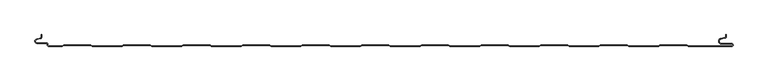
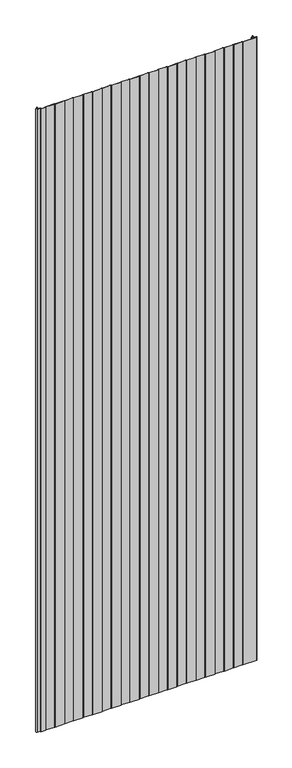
"""IFC4 building model written with IfcOpenShell, lengths in millimetres: plate geometry, PM1_Curtain-Panel_Perfil-Estándar : ACH_PM1_Panel-Acústico-Sectorización_100M."""

from ifc_helpers import new_model, si_unit, frame, origin, place, context, project, spatial, polyline, circle_curve, source, transform, mapped, element, save
from ifc_brep_helpers import plane_surface, cylinder_surface, revolved_surface, advanced_brep


def plate_645c54cf(model_context):
    return source(origin(), model_context, "Body", "AdvancedBrep", [
        advanced_brep(
        [(-562.4, -100.0, 3500.0), (-539.3999999, -100.0, 3500.0), (-536.8019223, -98.5, 3500.0), (-492.0019247, -98.5, 3500.0), (-489.4038471, -100.0, 3500.0), (-439.3999999, -100.0, 3500.0), (-436.8019223, -98.5, 3500.0), (-392.0019247, -98.5, 3500.0), (-389.4038471, -100.0, 3500.0), (-339.3999999, -100.0, 3500.0), (-336.8019223, -98.5, 3500.0), (-292.0019247, -98.5, 3500.0), (-289.4038471, -100.0, 3500.0), (-239.3999999, -100.0, 3500.0), (-236.8019223, -98.5, 3500.0), (-192.0019247, -98.5, 3500.0), (-189.4038471, -100.0, 3500.0), (-139.3999999, -100.0, 3500.0), (-136.8019223, -98.5, 3500.0), (-92.0019247, -98.5, 3500.0), (-89.4038471, -100.0, 3500.0), (-39.3999999, -100.0, 3500.0), (-36.8019223, -98.5, 3500.0), (7.9980753, -98.5, 3500.0), (10.5961529, -100.0, 3500.0), (60.6000001, -100.0, 3500.0), (63.1980777, -98.5, 3500.0), (107.9980753, -98.5, 3500.0), (110.5961529, -100.0, 3500.0), (160.6000001, -100.0, 3500.0), (163.1980777, -98.5, 3500.0), (207.9980753, -98.5, 3500.0), (210.5961529, -100.0, 3500.0), (260.6000001, -100.0, 3500.0), (263.1980777, -98.5, 3500.0), (307.9980753, -98.5, 3500.0), (310.5961529, -100.0, 3500.0), (360.6000001, -100.0, 3500.0), (363.1980777, -98.5, 3500.0), (407.9980753, -98.5, 3500.0), (410.5961529, -100.0, 3500.0), (460.6000001, -100.0, 3500.0), (463.1980777, -98.5, 3500.0), (507.9980753, -98.5, 3500.0), (510.5961529, -100.0, 3500.0), (583.1, -100.0, 3500.0), (585.6, -97.5, 3500.0), (583.1, -95.0, 3500.0), (566.1, -95.0, 3500.0), (565.4054075, -87.060769, 3500.0), (571.8514851, -85.924152, 3500.0), (574.0, -83.363652, 3500.0), (574.0, -80.0, 3500.0), (573.2, -80.0, 3500.0), (573.2, -83.363652, 3500.0), (571.7125666, -85.136306, 3500.0), (565.266489, -86.2729229, 3500.0), (566.1, -95.8, 3500.0), (583.1, -95.8, 3500.0), (583.1, -99.2, 3500.0), (510.8105122, -99.2, 3500.0), (508.2124346, -97.7, 3500.0), (462.9837184, -97.7, 3500.0), (460.3856408, -99.2, 3500.0), (410.8105122, -99.2, 3500.0), (408.2124346, -97.7, 3500.0), (362.9837184, -97.7, 3500.0), (360.3856408, -99.2, 3500.0), (310.8105122, -99.2, 3500.0), (308.2124346, -97.7, 3500.0), (262.9837184, -97.7, 3500.0), (260.3856408, -99.2, 3500.0), (210.8105122, -99.2, 3500.0), (208.2124346, -97.7, 3500.0), (162.9837184, -97.7, 3500.0), (160.3856408, -99.2, 3500.0), (110.8105122, -99.2, 3500.0), (108.2124346, -97.7, 3500.0), (62.9837184, -97.7, 3500.0), (60.3856408, -99.2, 3500.0), (10.8105122, -99.2, 3500.0), (8.2124346, -97.7, 3500.0), (-37.0162816, -97.7, 3500.0), (-39.6143592, -99.2, 3500.0), (-89.1894878, -99.2, 3500.0), (-91.7875654, -97.7, 3500.0), (-137.0162816, -97.7, 3500.0), (-139.6143592, -99.2, 3500.0), (-189.1894878, -99.2, 3500.0), (-191.7875654, -97.7, 3500.0), (-237.0162816, -97.7, 3500.0), (-239.6143592, -99.2, 3500.0), (-289.1894878, -99.2, 3500.0), (-291.7875654, -97.7, 3500.0), (-337.0162816, -97.7, 3500.0), (-339.6143592, -99.2, 3500.0), (-389.1894878, -99.2, 3500.0), (-391.7875654, -97.7, 3500.0), (-437.0162816, -97.7, 3500.0), (-439.6143592, -99.2, 3500.0), (-489.1894878, -99.2, 3500.0), (-491.7875654, -97.7, 3500.0), (-537.0162816, -97.7, 3500.0), (-539.6143592, -99.2, 3500.0), (-562.4, -99.2, 3500.0), (-563.6, -98.0, 3500.0), (-563.6, -96.6, 3500.0), (-566.4, -93.8, 3500.0), (-581.9, -93.8, 3500.0), (-582.529863, -88.2717638, 3500.0), (-576.370137, -86.849679, 3500.0), (-574.2, -84.121443, 3500.0), (-574.2, -80.0, 3500.0), (-575.0, -80.0, 3500.0), (-575.0, -84.121443, 3500.0), (-576.5500978, -86.0701831, 3500.0), (-582.7098239, -87.492268, 3500.0), (-581.9, -94.6, 3500.0), (-566.4, -94.6, 3500.0), (-564.4, -96.6, 3500.0), (-564.4, -98.0, 3500.0), (-562.4, -100.0, 0.0), (-564.4, -98.0, 0.0), (-564.4, -96.6, 0.0), (-566.4, -94.6, 0.0), (-581.9, -94.6, 0.0), (-582.7098239, -87.4922678, 0.0), (-576.5500979, -86.070183, 0.0), (-575.0, -84.121443, 0.0), (-575.0, -80.0, 0.0), (-574.2, -80.0, 0.0), (-574.2, -84.121443, 0.0), (-576.370137, -86.8496792, 0.0), (-582.529863, -88.271764, 0.0), (-581.9, -93.8, 0.0), (-566.4, -93.8, 0.0), (-563.6, -96.6, 0.0), (-563.6, -98.0, 0.0), (-562.4, -99.2, 0.0), (-539.6143592, -99.2, 0.0), (-537.0162816, -97.7, 0.0), (-491.7875654, -97.7, 0.0), (-489.1894878, -99.2, 0.0), (-439.6143592, -99.2, 0.0), (-437.0162816, -97.7, 0.0), (-391.7875654, -97.7, 0.0), (-389.1894878, -99.2, 0.0), (-339.6143592, -99.2, 0.0), (-337.0162816, -97.7, 0.0), (-291.7875654, -97.7, 0.0), (-289.1894878, -99.2, 0.0), (-239.6143592, -99.2, 0.0), (-237.0162816, -97.7, 0.0), (-191.7875654, -97.7, 0.0), (-189.1894878, -99.2, 0.0), (-139.6143592, -99.2, 0.0), (-137.0162816, -97.7, 0.0), (-91.7875654, -97.7, 0.0), (-89.1894878, -99.2, 0.0), (-39.6143592, -99.2, 0.0), (-37.0162816, -97.7, 0.0), (8.2124346, -97.7, 0.0), (10.8105122, -99.2, 0.0), (60.3856408, -99.2, 0.0), (62.9837184, -97.7, 0.0), (108.2124346, -97.7, 0.0), (110.8105122, -99.2, 0.0), (160.3856408, -99.2, 0.0), (162.9837184, -97.7, 0.0), (208.2124346, -97.7, 0.0), (210.8105122, -99.2, 0.0), (260.3856408, -99.2, 0.0), (262.9837184, -97.7, 0.0), (308.2124346, -97.7, 0.0), (310.8105122, -99.2, 0.0), (360.3856408, -99.2, 0.0), (362.9837184, -97.7, 0.0), (408.2124346, -97.7, 0.0), (410.8105122, -99.2, 0.0), (460.3856408, -99.2, 0.0), (462.9837184, -97.7, 0.0), (508.2124346, -97.7, 0.0), (510.8105122, -99.2, 0.0), (583.1, -99.2, 0.0), (583.1, -95.8, 0.0), (566.1, -95.8, 0.0), (565.266489, -86.2729227, 0.0), (571.7125666, -85.1363058, 0.0), (573.2, -83.363652, 0.0), (573.2, -80.0, 0.0), (574.0, -80.0, 0.0), (574.0, -83.363652, 0.0), (571.8514851, -85.9241522, 0.0), (565.4054075, -87.0607691, 0.0), (566.1, -95.0, 0.0), (583.1, -95.0, 0.0), (585.6, -97.5, 0.0), (583.1, -100.0, 0.0), (510.5961529, -100.0, 0.0), (507.9980753, -98.5, 0.0), (463.1980777, -98.5, 0.0), (460.6000001, -100.0, 0.0), (410.5961529, -100.0, 0.0), (407.9980753, -98.5, 0.0), (363.1980777, -98.5, 0.0), (360.6000001, -100.0, 0.0), (310.5961529, -100.0, 0.0), (307.9980753, -98.5, 0.0), (263.1980777, -98.5, 0.0), (260.6000001, -100.0, 0.0), (210.5961529, -100.0, 0.0), (207.9980753, -98.5, 0.0), (163.1980777, -98.5, 0.0), (160.6000001, -100.0, 0.0), (110.5961529, -100.0, 0.0), (107.9980753, -98.5, 0.0), (63.1980777, -98.5, 0.0), (60.6000001, -100.0, 0.0), (10.5961529, -100.0, 0.0), (7.9980753, -98.5, 0.0), (-36.8019223, -98.5, 0.0), (-39.3999999, -100.0, 0.0), (-89.4038471, -100.0, 0.0), (-92.0019247, -98.5, 0.0), (-136.8019223, -98.5, 0.0), (-139.3999999, -100.0, 0.0), (-189.4038471, -100.0, 0.0), (-192.0019247, -98.5, 0.0), (-236.8019223, -98.5, 0.0), (-239.3999999, -100.0, 0.0), (-289.4038471, -100.0, 0.0), (-292.0019247, -98.5, 0.0), (-336.8019223, -98.5, 0.0), (-339.3999999, -100.0, 0.0), (-389.4038471, -100.0, 0.0), (-392.0019247, -98.5, 0.0), (-436.8019223, -98.5, 0.0), (-439.3999999, -100.0, 0.0), (-489.4038471, -100.0, 0.0), (-492.0019247, -98.5, 0.0), (-536.8019223, -98.5, 0.0), (-539.3999999, -100.0, 0.0)],
        [
            (0, 1),
            (1, 2),
            (2, 3),
            (3, 4),
            (4, 5),
            (5, 6),
            (6, 7),
            (7, 8),
            (8, 9),
            (9, 10),
            (10, 11),
            (11, 12),
            (12, 13),
            (13, 14),
            (14, 15),
            (15, 16),
            (16, 17),
            (17, 18),
            (18, 19),
            (19, 20),
            (20, 21),
            (21, 22),
            (22, 23),
            (23, 24),
            (24, 25),
            (25, 26),
            (26, 27),
            (27, 28),
            (28, 29),
            (29, 30),
            (30, 31),
            (31, 32),
            (32, 33),
            (33, 34),
            (34, 35),
            (35, 36),
            (36, 37),
            (37, 38),
            (38, 39),
            (39, 40),
            (40, 41),
            (41, 42),
            (42, 43),
            (43, 44),
            (44, 45),
            (45, 46, circle_curve(frame((583.1, -97.5, 3500.0), z_axis=(0.0, 0.0, 1.0), x_axis=(1.0, 0.0, 0.0)), 2.5)),
            (46, 47, circle_curve(frame((583.1, -97.5, 3500.0), z_axis=(0.0, 0.0, 1.0), x_axis=(1.0, 0.0, 0.0)), 2.5)),
            (47, 48),
            (48, 49, circle_curve(frame((566.1, -91.0, 3500.0), z_axis=(0.0, 0.0, -1.0), x_axis=(1.0, 0.0, 0.0)), 4.0)),
            (49, 50),
            (50, 51, circle_curve(frame((571.4, -83.363652, 3500.0), z_axis=(0.0, 0.0, 1.0), x_axis=(1.0, 0.0, 0.0)), 2.6)),
            (51, 52),
            (52, 53),
            (53, 54),
            (54, 55, circle_curve(frame((571.4, -83.363652, 3500.0), z_axis=(0.0, 0.0, -1.0), x_axis=(1.0, 0.0, 0.0)), 1.8)),
            (55, 56),
            (56, 57, circle_curve(frame((566.1, -91.0, 3500.0), z_axis=(0.0, 0.0, 1.0), x_axis=(1.0, 0.0, 0.0)), 4.8)),
            (57, 58),
            (58, 59, circle_curve(frame((583.1, -97.5, 3500.0), z_axis=(0.0, 0.0, -1.0), x_axis=(1.0, 0.0, 0.0)), 1.7)),
            (59, 60),
            (60, 61),
            (61, 62),
            (62, 63),
            (63, 64),
            (64, 65),
            (65, 66),
            (66, 67),
            (67, 68),
            (68, 69),
            (69, 70),
            (70, 71),
            (71, 72),
            (72, 73),
            (73, 74),
            (74, 75),
            (75, 76),
            (76, 77),
            (77, 78),
            (78, 79),
            (79, 80),
            (80, 81),
            (81, 82),
            (82, 83),
            (83, 84),
            (84, 85),
            (85, 86),
            (86, 87),
            (87, 88),
            (88, 89),
            (89, 90),
            (90, 91),
            (91, 92),
            (92, 93),
            (93, 94),
            (94, 95),
            (95, 96),
            (96, 97),
            (97, 98),
            (98, 99),
            (99, 100),
            (100, 101),
            (101, 102),
            (102, 103),
            (103, 104),
            (104, 105, circle_curve(frame((-562.4, -98.0, 3500.0), z_axis=(0.0, 0.0, -1.0), x_axis=(1.0, 0.0, 0.0)), 1.2)),
            (105, 106),
            (106, 107, circle_curve(frame((-566.4, -96.6, 3500.0), z_axis=(0.0, 0.0, 1.0), x_axis=(1.0, 0.0, 0.0)), 2.8)),
            (107, 108),
            (108, 109, circle_curve(frame((-581.9, -91.0, 3500.0), z_axis=(0.0, 0.0, -1.0), x_axis=(1.0, 0.0, 0.0)), 2.8)),
            (109, 110),
            (110, 111, circle_curve(frame((-577.0, -84.121443, 3500.0), z_axis=(0.0, 0.0, 1.0), x_axis=(1.0, 0.0, 0.0)), 2.8)),
            (111, 112),
            (112, 113),
            (113, 114),
            (114, 115, circle_curve(frame((-577.0, -84.121443, 3500.0), z_axis=(0.0, 0.0, -1.0), x_axis=(1.0, 0.0, 0.0)), 2.0)),
            (115, 116),
            (116, 117, circle_curve(frame((-581.9, -91.0, 3500.0), z_axis=(0.0, 0.0, 1.0), x_axis=(1.0, 0.0, 0.0)), 3.6)),
            (117, 118),
            (118, 119, circle_curve(frame((-566.4, -96.6, 3500.0), z_axis=(0.0, 0.0, -1.0), x_axis=(1.0, 0.0, 0.0)), 2.0)),
            (119, 120),
            (120, 0, circle_curve(frame((-562.4, -98.0, 3500.0), z_axis=(0.0, 0.0, 1.0), x_axis=(1.0, 0.0, 0.0)), 2.0)),
            (121, 122, circle_curve(frame((-562.4, -98.0, 0.0), z_axis=(0.0, 0.0, -1.0), x_axis=(1.0, 0.0, 0.0)), 2.0)),
            (122, 123),
            (123, 124, circle_curve(frame((-566.4, -96.6, 0.0), z_axis=(0.0, 0.0, 1.0), x_axis=(1.0, 0.0, 0.0)), 2.0)),
            (124, 125),
            (125, 126, circle_curve(frame((-581.9, -91.0, 0.0), z_axis=(0.0, 0.0, -1.0), x_axis=(1.0, 0.0, 0.0)), 3.6)),
            (126, 127),
            (127, 128, circle_curve(frame((-577.0, -84.121443, 0.0), z_axis=(0.0, 0.0, 1.0), x_axis=(1.0, 0.0, 0.0)), 2.0)),
            (128, 129),
            (129, 130),
            (130, 131),
            (131, 132, circle_curve(frame((-577.0, -84.121443, 0.0), z_axis=(0.0, 0.0, -1.0), x_axis=(1.0, 0.0, 0.0)), 2.8)),
            (132, 133),
            (133, 134, circle_curve(frame((-581.9, -91.0, 0.0), z_axis=(0.0, 0.0, 1.0), x_axis=(1.0, 0.0, 0.0)), 2.8)),
            (134, 135),
            (135, 136, circle_curve(frame((-566.4, -96.6, 0.0), z_axis=(0.0, 0.0, -1.0), x_axis=(1.0, 0.0, 0.0)), 2.8)),
            (136, 137),
            (137, 138, circle_curve(frame((-562.4, -98.0, 0.0), z_axis=(0.0, 0.0, 1.0), x_axis=(1.0, 0.0, 0.0)), 1.2)),
            (138, 139),
            (139, 140),
            (140, 141),
            (141, 142),
            (142, 143),
            (143, 144),
            (144, 145),
            (145, 146),
            (146, 147),
            (147, 148),
            (148, 149),
            (149, 150),
            (150, 151),
            (151, 152),
            (152, 153),
            (153, 154),
            (154, 155),
            (155, 156),
            (156, 157),
            (157, 158),
            (158, 159),
            (159, 160),
            (160, 161),
            (161, 162),
            (162, 163),
            (163, 164),
            (164, 165),
            (165, 166),
            (166, 167),
            (167, 168),
            (168, 169),
            (169, 170),
            (170, 171),
            (171, 172),
            (172, 173),
            (173, 174),
            (174, 175),
            (175, 176),
            (176, 177),
            (177, 178),
            (178, 179),
            (179, 180),
            (180, 181),
            (181, 182),
            (182, 183),
            (183, 184, circle_curve(frame((583.1, -97.5, 0.0), z_axis=(0.0, 0.0, 1.0), x_axis=(1.0, 0.0, 0.0)), 1.7)),
            (184, 185),
            (185, 186, circle_curve(frame((566.1, -91.0, 0.0), z_axis=(0.0, 0.0, -1.0), x_axis=(1.0, 0.0, 0.0)), 4.8)),
            (186, 187),
            (187, 188, circle_curve(frame((571.4, -83.363652, 0.0), z_axis=(0.0, 0.0, 1.0), x_axis=(1.0, 0.0, 0.0)), 1.8)),
            (188, 189),
            (189, 190),
            (190, 191),
            (191, 192, circle_curve(frame((571.4, -83.363652, 0.0), z_axis=(0.0, 0.0, -1.0), x_axis=(1.0, 0.0, 0.0)), 2.6)),
            (192, 193),
            (193, 194, circle_curve(frame((566.1, -91.0, 0.0), z_axis=(0.0, 0.0, 1.0), x_axis=(1.0, 0.0, 0.0)), 4.0)),
            (194, 195),
            (195, 196, circle_curve(frame((583.1, -97.5, 0.0), z_axis=(0.0, 0.0, -1.0), x_axis=(1.0, 0.0, 0.0)), 2.5)),
            (196, 197, circle_curve(frame((583.1, -97.5, 0.0), z_axis=(0.0, 0.0, -1.0), x_axis=(1.0, 0.0, 0.0)), 2.5)),
            (197, 198),
            (198, 199),
            (199, 200),
            (200, 201),
            (201, 202),
            (202, 203),
            (203, 204),
            (204, 205),
            (205, 206),
            (206, 207),
            (207, 208),
            (208, 209),
            (209, 210),
            (210, 211),
            (211, 212),
            (212, 213),
            (213, 214),
            (214, 215),
            (215, 216),
            (216, 217),
            (217, 218),
            (218, 219),
            (219, 220),
            (220, 221),
            (221, 222),
            (222, 223),
            (223, 224),
            (224, 225),
            (225, 226),
            (226, 227),
            (227, 228),
            (228, 229),
            (229, 230),
            (230, 231),
            (231, 232),
            (232, 233),
            (233, 234),
            (234, 235),
            (235, 236),
            (236, 237),
            (237, 238),
            (238, 239),
            (239, 240),
            (240, 241),
            (241, 121),
            (0, 121),
            (241, 1),
            (240, 2),
            (239, 3),
            (238, 4),
            (237, 5),
            (236, 6),
            (235, 7),
            (234, 8),
            (233, 9),
            (232, 10),
            (231, 11),
            (230, 12),
            (229, 13),
            (228, 14),
            (227, 15),
            (226, 16),
            (225, 17),
            (224, 18),
            (223, 19),
            (222, 20),
            (221, 21),
            (220, 22),
            (219, 23),
            (218, 24),
            (217, 25),
            (216, 26),
            (215, 27),
            (214, 28),
            (213, 29),
            (212, 30),
            (211, 31),
            (210, 32),
            (209, 33),
            (208, 34),
            (207, 35),
            (206, 36),
            (205, 37),
            (204, 38),
            (203, 39),
            (202, 40),
            (201, 41),
            (200, 42),
            (199, 43),
            (198, 44),
            (197, 45),
            (195, 47),
            (194, 48),
            (193, 49),
            (192, 50),
            (191, 51),
            (190, 52),
            (189, 53),
            (188, 54),
            (187, 55),
            (186, 56),
            (185, 57),
            (184, 58),
            (183, 59),
            (182, 60),
            (181, 61),
            (180, 62),
            (179, 63),
            (178, 64),
            (177, 65),
            (176, 66),
            (175, 67),
            (174, 68),
            (173, 69),
            (172, 70),
            (171, 71),
            (170, 72),
            (169, 73),
            (168, 74),
            (167, 75),
            (166, 76),
            (165, 77),
            (164, 78),
            (163, 79),
            (162, 80),
            (161, 81),
            (160, 82),
            (159, 83),
            (158, 84),
            (157, 85),
            (156, 86),
            (155, 87),
            (154, 88),
            (153, 89),
            (152, 90),
            (151, 91),
            (150, 92),
            (149, 93),
            (148, 94),
            (147, 95),
            (146, 96),
            (145, 97),
            (144, 98),
            (143, 99),
            (142, 100),
            (141, 101),
            (140, 102),
            (139, 103),
            (138, 104),
            (137, 105),
            (136, 106),
            (135, 107),
            (134, 108),
            (133, 109),
            (132, 110),
            (131, 111),
            (130, 112),
            (129, 113),
            (128, 114),
            (127, 115),
            (126, 116),
            (125, 117),
            (124, 118),
            (123, 119),
            (122, 120),
        ],
        [
            plane_surface(frame((-575.0, -100.0, 3500.0), z_axis=(0.0, 0.0, 1.0), x_axis=(0.0, 1.0, 0.0))),
            plane_surface(frame((-575.0, -100.0, 0.0), z_axis=(0.0, 0.0, -1.0), x_axis=(0.0, 1.0, 0.0))),
            plane_surface(frame((-562.4, -100.0, 3500.0), z_axis=(0.0, -1.0, 0.0), x_axis=(0.0, 0.0, -1.0))),
            plane_surface(frame((-539.3999999, -100.0, 3500.0), z_axis=(0.49999979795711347, -0.8660255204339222, 0.0), x_axis=(0.0, 0.0, -1.0))),
            plane_surface(frame((-536.8019223, -98.5, 3500.0), z_axis=(0.0, -1.0, 0.0), x_axis=(0.0, 0.0, -1.0))),
            plane_surface(frame((-492.0019247, -98.5, 3500.0), z_axis=(-0.49999979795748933, -0.8660255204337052, 0.0), x_axis=(0.0, 0.0, -1.0))),
            plane_surface(frame((-489.4038471, -100.0, 3500.0), z_axis=(0.0, -1.0, 0.0), x_axis=(0.0, 0.0, -1.0))),
            plane_surface(frame((-439.3999999, -100.0, 3500.0), z_axis=(0.49999979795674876, -0.8660255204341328, 0.0), x_axis=(0.0, 0.0, -1.0))),
            plane_surface(frame((-436.8019223, -98.5, 3500.0), z_axis=(0.0, -1.0, 0.0), x_axis=(0.0, 0.0, -1.0))),
            plane_surface(frame((-392.0019247, -98.5, 3500.0), z_axis=(-0.4999997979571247, -0.8660255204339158, 0.0), x_axis=(0.0, 0.0, -1.0))),
            plane_surface(frame((-389.4038471, -100.0, 3500.0), z_axis=(0.0, -1.0, 0.0), x_axis=(0.0, 0.0, -1.0))),
            plane_surface(frame((-339.3999999, -100.0, 3500.0), z_axis=(0.49999979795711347, -0.8660255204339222, 0.0), x_axis=(0.0, 0.0, -1.0))),
            plane_surface(frame((-336.8019223, -98.5, 3500.0), z_axis=(0.0, -1.0, 0.0), x_axis=(0.0, 0.0, -1.0))),
            plane_surface(frame((-292.0019247, -98.5, 3500.0), z_axis=(-0.4999997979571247, -0.8660255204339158, 0.0), x_axis=(0.0, 0.0, -1.0))),
            plane_surface(frame((-289.4038471, -100.0, 3500.0), z_axis=(0.0, -1.0, 0.0), x_axis=(0.0, 0.0, -1.0))),
            plane_surface(frame((-239.3999999, -100.0, 3500.0), z_axis=(0.49999979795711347, -0.8660255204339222, 0.0), x_axis=(0.0, 0.0, -1.0))),
            plane_surface(frame((-236.8019223, -98.5, 3500.0), z_axis=(0.0, -1.0, 0.0), x_axis=(0.0, 0.0, -1.0))),
            plane_surface(frame((-192.0019247, -98.5, 3500.0), z_axis=(-0.49999979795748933, -0.8660255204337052, 0.0), x_axis=(0.0, 0.0, -1.0))),
            plane_surface(frame((-189.4038471, -100.0, 3500.0), z_axis=(0.0, -1.0, 0.0), x_axis=(0.0, 0.0, -1.0))),
            plane_surface(frame((-139.3999999, -100.0, 3500.0), z_axis=(0.49999979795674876, -0.8660255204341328, 0.0), x_axis=(0.0, 0.0, -1.0))),
            plane_surface(frame((-136.8019223, -98.5, 3500.0), z_axis=(0.0, -1.0, 0.0), x_axis=(0.0, 0.0, -1.0))),
            plane_surface(frame((-92.0019247, -98.5, 3500.0), z_axis=(-0.4999997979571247, -0.8660255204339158, 0.0), x_axis=(0.0, 0.0, -1.0))),
            plane_surface(frame((-89.4038471, -100.0, 3500.0), z_axis=(0.0, -1.0, 0.0), x_axis=(0.0, 0.0, -1.0))),
            plane_surface(frame((-39.3999999, -100.0, 3500.0), z_axis=(0.49999979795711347, -0.8660255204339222, 0.0), x_axis=(0.0, 0.0, -1.0))),
            plane_surface(frame((-36.8019223, -98.5, 3500.0), z_axis=(0.0, -1.0, 0.0), x_axis=(0.0, 0.0, -1.0))),
            plane_surface(frame((7.9980753, -98.5, 3500.0), z_axis=(-0.4999997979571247, -0.8660255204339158, 0.0), x_axis=(0.0, 0.0, -1.0))),
            plane_surface(frame((10.5961529, -100.0, 3500.0), z_axis=(0.0, -1.0, 0.0), x_axis=(0.0, 0.0, -1.0))),
            plane_surface(frame((60.6000001, -100.0, 3500.0), z_axis=(0.49999979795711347, -0.8660255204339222, 0.0), x_axis=(0.0, 0.0, -1.0))),
            plane_surface(frame((63.1980777, -98.5, 3500.0), z_axis=(0.0, -1.0, 0.0), x_axis=(0.0, 0.0, -1.0))),
            plane_surface(frame((107.9980753, -98.5, 3500.0), z_axis=(-0.49999979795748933, -0.8660255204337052, 0.0), x_axis=(0.0, 0.0, -1.0))),
            plane_surface(frame((110.5961529, -100.0, 3500.0), z_axis=(0.0, -1.0, 0.0), x_axis=(0.0, 0.0, -1.0))),
            plane_surface(frame((160.6000001, -100.0, 3500.0), z_axis=(0.49999979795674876, -0.8660255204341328, 0.0), x_axis=(0.0, 0.0, -1.0))),
            plane_surface(frame((163.1980777, -98.5, 3500.0), z_axis=(0.0, -1.0, 0.0), x_axis=(0.0, 0.0, -1.0))),
            plane_surface(frame((207.9980753, -98.5, 3500.0), z_axis=(-0.4999997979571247, -0.8660255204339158, 0.0), x_axis=(0.0, 0.0, -1.0))),
            plane_surface(frame((210.5961529, -100.0, 3500.0), z_axis=(0.0, -1.0, 0.0), x_axis=(0.0, 0.0, -1.0))),
            plane_surface(frame((260.6000001, -100.0, 3500.0), z_axis=(0.49999979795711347, -0.8660255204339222, 0.0), x_axis=(0.0, 0.0, -1.0))),
            plane_surface(frame((263.1980777, -98.5, 3500.0), z_axis=(0.0, -1.0, 0.0), x_axis=(0.0, 0.0, -1.0))),
            plane_surface(frame((307.9980753, -98.5, 3500.0), z_axis=(-0.4999997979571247, -0.8660255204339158, 0.0), x_axis=(0.0, 0.0, -1.0))),
            plane_surface(frame((310.5961529, -100.0, 3500.0), z_axis=(0.0, -1.0, 0.0), x_axis=(0.0, 0.0, -1.0))),
            plane_surface(frame((360.6000001, -100.0, 3500.0), z_axis=(0.49999979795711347, -0.8660255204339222, 0.0), x_axis=(0.0, 0.0, -1.0))),
            plane_surface(frame((363.1980777, -98.5, 3500.0), z_axis=(0.0, -1.0, 0.0), x_axis=(0.0, 0.0, -1.0))),
            plane_surface(frame((407.9980753, -98.5, 3500.0), z_axis=(-0.49999979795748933, -0.8660255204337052, 0.0), x_axis=(0.0, 0.0, -1.0))),
            plane_surface(frame((410.5961529, -100.0, 3500.0), z_axis=(0.0, -1.0, 0.0), x_axis=(0.0, 0.0, -1.0))),
            plane_surface(frame((460.6000001, -100.0, 3500.0), z_axis=(0.49999979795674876, -0.8660255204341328, 0.0), x_axis=(0.0, 0.0, -1.0))),
            plane_surface(frame((463.1980777, -98.5, 3500.0), z_axis=(0.0, -1.0, 0.0), x_axis=(0.0, 0.0, -1.0))),
            plane_surface(frame((507.9980753, -98.5, 3500.0), z_axis=(-0.4999997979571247, -0.8660255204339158, 0.0), x_axis=(0.0, 0.0, -1.0))),
            plane_surface(frame((560.890897, -100.0, 3500.0), z_axis=(0.0, -1.0, 0.0), x_axis=(0.0, 0.0, -1.0))),
            cylinder_surface(frame((583.1, -97.5, 3500.0), z_axis=(0.0, 0.0, 1.0), x_axis=(1.0, 0.0, 0.0)), 2.5),
            plane_surface(frame((583.1, -95.0, 3500.0), z_axis=(0.0, 1.0, 0.0), x_axis=(0.0, 0.0, -1.0))),
            revolved_surface(polyline([(570.1, -91.0, 0.0), (570.1, -91.0, 3500.0)]), (566.1, -91.0, 3500.0), (0.0, 0.0, -1.0)),
            plane_surface(frame((565.4054075, -87.0607691, 3500.0), z_axis=(0.17364813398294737, -0.9848077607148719, 0.0), x_axis=(0.0, 0.0, -1.0))),
            cylinder_surface(frame((571.4, -83.363652, 3500.0), z_axis=(0.0, 0.0, 1.0), x_axis=(1.0, 0.0, 0.0)), 2.6),
            plane_surface(frame((574.0, -83.363652, 3500.0), z_axis=(1.0, 0.0, 0.0), x_axis=(0.0, 0.0, -1.0))),
            plane_surface(frame((574.0, -80.0, 3500.0), z_axis=(0.0, 1.0, 0.0), x_axis=(0.0, 0.0, -1.0))),
            plane_surface(frame((573.2, -80.0, 3500.0), z_axis=(-1.0, 0.0, 0.0), x_axis=(0.0, 0.0, -1.0))),
            revolved_surface(polyline([(573.1999999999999, -83.363652, 0.0), (573.1999999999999, -83.363652, 3500.0)]), (571.4, -83.363652, 3500.0), (0.0, 0.0, -1.0)),
            plane_surface(frame((571.7125666, -85.1363058, 3500.0), z_axis=(-0.17364813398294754, 0.9848077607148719, 0.0), x_axis=(0.0, 0.0, -1.0))),
            cylinder_surface(frame((566.1, -91.0, 3500.0), z_axis=(0.0, 0.0, 1.0), x_axis=(1.0, 0.0, 0.0)), 4.8),
            plane_surface(frame((566.1, -95.8, 3500.0), z_axis=(0.0, -1.0, 0.0), x_axis=(0.0, 0.0, -1.0))),
            revolved_surface(polyline([(584.8000000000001, -97.5, 0.0), (584.8000000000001, -97.5, 3500.0)]), (583.1, -97.5, 3500.0), (0.0, 0.0, -1.0)),
            plane_surface(frame((560.890897, -99.2, 3500.0), z_axis=(0.0, 1.0, 0.0), x_axis=(0.0, 0.0, -1.0))),
            plane_surface(frame((510.8105122, -99.2, 3500.0), z_axis=(0.49999979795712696, 0.8660255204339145, 0.0), x_axis=(0.0, 0.0, -1.0))),
            plane_surface(frame((508.2124346, -97.7, 3500.0), z_axis=(0.0, 1.0, 0.0), x_axis=(0.0, 0.0, -1.0))),
            plane_surface(frame((462.9837184, -97.7, 3500.0), z_axis=(-0.4999997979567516, 0.8660255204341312, 0.0), x_axis=(0.0, 0.0, -1.0))),
            plane_surface(frame((460.3856408, -99.2, 3500.0), z_axis=(0.0, 1.0, 0.0), x_axis=(0.0, 0.0, -1.0))),
            plane_surface(frame((410.8105122, -99.2, 3500.0), z_axis=(0.4999997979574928, 0.8660255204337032, 0.0), x_axis=(0.0, 0.0, -1.0))),
            plane_surface(frame((408.2124346, -97.7, 3500.0), z_axis=(0.0, 1.0, 0.0), x_axis=(0.0, 0.0, -1.0))),
            plane_surface(frame((362.9837184, -97.7, 3500.0), z_axis=(-0.49999979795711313, 0.8660255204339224, 0.0), x_axis=(0.0, 0.0, -1.0))),
            plane_surface(frame((360.3856408, -99.2, 3500.0), z_axis=(0.0, 1.0, 0.0), x_axis=(0.0, 0.0, -1.0))),
            plane_surface(frame((310.8105122, -99.2, 3500.0), z_axis=(0.4999997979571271, 0.8660255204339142, 0.0), x_axis=(0.0, 0.0, -1.0))),
            plane_surface(frame((308.2124346, -97.7, 3500.0), z_axis=(0.0, 1.0, 0.0), x_axis=(0.0, 0.0, -1.0))),
            plane_surface(frame((262.9837184, -97.7, 3500.0), z_axis=(-0.49999979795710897, 0.8660255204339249, 0.0), x_axis=(0.0, 0.0, -1.0))),
            plane_surface(frame((260.3856408, -99.2, 3500.0), z_axis=(0.0, 1.0, 0.0), x_axis=(0.0, 0.0, -1.0))),
            plane_surface(frame((210.8105122, -99.2, 3500.0), z_axis=(0.4999997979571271, 0.8660255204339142, 0.0), x_axis=(0.0, 0.0, -1.0))),
            plane_surface(frame((208.2124346, -97.7, 3500.0), z_axis=(0.0, 1.0, 0.0), x_axis=(0.0, 0.0, -1.0))),
            plane_surface(frame((162.9837184, -97.7, 3500.0), z_axis=(-0.4999997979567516, 0.8660255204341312, 0.0), x_axis=(0.0, 0.0, -1.0))),
            plane_surface(frame((160.3856408, -99.2, 3500.0), z_axis=(0.0, 1.0, 0.0), x_axis=(0.0, 0.0, -1.0))),
            plane_surface(frame((110.8105122, -99.2, 3500.0), z_axis=(0.49999979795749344, 0.8660255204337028, 0.0), x_axis=(0.0, 0.0, -1.0))),
            plane_surface(frame((108.2124346, -97.7, 3500.0), z_axis=(0.0, 1.0, 0.0), x_axis=(0.0, 0.0, -1.0))),
            plane_surface(frame((62.9837184, -97.7, 3500.0), z_axis=(-0.49999979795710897, 0.8660255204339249, 0.0), x_axis=(0.0, 0.0, -1.0))),
            plane_surface(frame((60.3856408, -99.2, 3500.0), z_axis=(0.0, 1.0, 0.0), x_axis=(0.0, 0.0, -1.0))),
            plane_surface(frame((10.8105122, -99.2, 3500.0), z_axis=(0.4999997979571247, 0.8660255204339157, 0.0), x_axis=(0.0, 0.0, -1.0))),
            plane_surface(frame((8.2124346, -97.7, 3500.0), z_axis=(0.0, 1.0, 0.0), x_axis=(0.0, 0.0, -1.0))),
            plane_surface(frame((-37.0162816, -97.7, 3500.0), z_axis=(-0.49999979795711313, 0.8660255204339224, 0.0), x_axis=(0.0, 0.0, -1.0))),
            plane_surface(frame((-39.6143592, -99.2, 3500.0), z_axis=(0.0, 1.0, 0.0), x_axis=(0.0, 0.0, -1.0))),
            plane_surface(frame((-89.1894878, -99.2, 3500.0), z_axis=(0.4999997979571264, 0.8660255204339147, 0.0), x_axis=(0.0, 0.0, -1.0))),
            plane_surface(frame((-91.7875654, -97.7, 3500.0), z_axis=(0.0, 1.0, 0.0), x_axis=(0.0, 0.0, -1.0))),
            plane_surface(frame((-137.0162816, -97.7, 3500.0), z_axis=(-0.49999979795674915, 0.8660255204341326, 0.0), x_axis=(0.0, 0.0, -1.0))),
            plane_surface(frame((-139.6143592, -99.2, 3500.0), z_axis=(0.0, 1.0, 0.0), x_axis=(0.0, 0.0, -1.0))),
            plane_surface(frame((-189.1894878, -99.2, 3500.0), z_axis=(0.49999979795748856, 0.8660255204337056, 0.0), x_axis=(0.0, 0.0, -1.0))),
            plane_surface(frame((-191.7875654, -97.7, 3500.0), z_axis=(0.0, 1.0, 0.0), x_axis=(0.0, 0.0, -1.0))),
            plane_surface(frame((-237.0162816, -97.7, 3500.0), z_axis=(-0.4999997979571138, 0.866025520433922, 0.0), x_axis=(0.0, 0.0, -1.0))),
            plane_surface(frame((-239.6143592, -99.2, 3500.0), z_axis=(0.0, 1.0, 0.0), x_axis=(0.0, 0.0, -1.0))),
            plane_surface(frame((-289.1894878, -99.2, 3500.0), z_axis=(0.49999979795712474, 0.8660255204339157, 0.0), x_axis=(0.0, 0.0, -1.0))),
            plane_surface(frame((-291.7875654, -97.7, 3500.0), z_axis=(0.0, 1.0, 0.0), x_axis=(0.0, 0.0, -1.0))),
            plane_surface(frame((-337.0162816, -97.7, 3500.0), z_axis=(-0.49999979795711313, 0.8660255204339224, 0.0), x_axis=(0.0, 0.0, -1.0))),
            plane_surface(frame((-339.6143592, -99.2, 3500.0), z_axis=(0.0, 1.0, 0.0), x_axis=(0.0, 0.0, -1.0))),
            plane_surface(frame((-389.1894878, -99.2, 3500.0), z_axis=(0.49999979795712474, 0.8660255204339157, 0.0), x_axis=(0.0, 0.0, -1.0))),
            plane_surface(frame((-391.7875654, -97.7, 3500.0), z_axis=(0.0, 1.0, 0.0), x_axis=(0.0, 0.0, -1.0))),
            plane_surface(frame((-437.0162816, -97.7, 3500.0), z_axis=(-0.49999979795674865, 0.8660255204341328, 0.0), x_axis=(0.0, 0.0, -1.0))),
            plane_surface(frame((-439.6143592, -99.2, 3500.0), z_axis=(0.0, 1.0, 0.0), x_axis=(0.0, 0.0, -1.0))),
            plane_surface(frame((-489.1894878, -99.2, 3500.0), z_axis=(0.49999979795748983, 0.866025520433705, 0.0), x_axis=(0.0, 0.0, -1.0))),
            plane_surface(frame((-491.7875654, -97.7, 3500.0), z_axis=(0.0, 1.0, 0.0), x_axis=(0.0, 0.0, -1.0))),
            plane_surface(frame((-537.0162816, -97.7, 3500.0), z_axis=(-0.49999979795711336, 0.8660255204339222, 0.0), x_axis=(0.0, 0.0, -1.0))),
            plane_surface(frame((-539.6143592, -99.2, 3500.0), z_axis=(0.0, 1.0, 0.0), x_axis=(0.0, 0.0, -1.0))),
            revolved_surface(polyline([(-561.1999999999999, -98.0, 0.0), (-561.1999999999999, -98.0, 3500.0)]), (-562.4, -98.0, 3500.0), (0.0, 0.0, -1.0)),
            plane_surface(frame((-563.6, -98.0, 3500.0), z_axis=(1.0, 0.0, 0.0), x_axis=(0.0, 0.0, -1.0))),
            cylinder_surface(frame((-566.4, -96.6, 3500.0), z_axis=(0.0, 0.0, 1.0), x_axis=(1.0, 0.0, 0.0)), 2.8),
            plane_surface(frame((-566.4, -93.8, 3500.0), z_axis=(0.0, 1.0, 0.0), x_axis=(0.0, 0.0, -1.0))),
            revolved_surface(polyline([(-579.1, -91.0, 0.0), (-579.1, -91.0, 3500.0)]), (-581.9, -91.0, 3500.0), (0.0, 0.0, -1.0)),
            plane_surface(frame((-582.529863, -88.271764, 3500.0), z_axis=(0.2249510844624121, -0.9743700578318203, 0.0), x_axis=(0.0, 0.0, -1.0))),
            cylinder_surface(frame((-577.0, -84.121443, 3500.0), z_axis=(0.0, 0.0, 1.0), x_axis=(1.0, 0.0, 0.0)), 2.8),
            plane_surface(frame((-574.2, -84.121443, 3500.0), z_axis=(1.0, 0.0, 0.0), x_axis=(0.0, 0.0, -1.0))),
            plane_surface(frame((-574.2, -80.0, 3500.0), z_axis=(0.0, 1.0, 0.0), x_axis=(0.0, 0.0, -1.0))),
            plane_surface(frame((-575.0, -80.0, 3500.0), z_axis=(-1.0, 0.0, 0.0), x_axis=(0.0, 0.0, -1.0))),
            revolved_surface(polyline([(-575.0, -84.121443, 0.0), (-575.0, -84.121443, 3500.0)]), (-577.0, -84.121443, 3500.0), (0.0, 0.0, -1.0)),
            plane_surface(frame((-576.5500979, -86.070183, 3500.0), z_axis=(-0.22495108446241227, 0.9743700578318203, 0.0), x_axis=(0.0, 0.0, -1.0))),
            cylinder_surface(frame((-581.9, -91.0, 3500.0), z_axis=(0.0, 0.0, 1.0), x_axis=(1.0, 0.0, 0.0)), 3.6),
            plane_surface(frame((-581.9, -94.6, 3500.0), z_axis=(0.0, -1.0, 0.0), x_axis=(0.0, 0.0, -1.0))),
            revolved_surface(polyline([(-564.4, -96.6, 0.0), (-564.4, -96.6, 3500.0)]), (-566.4, -96.6, 3500.0), (0.0, 0.0, -1.0)),
            plane_surface(frame((-564.4, -96.6, 3500.0), z_axis=(-1.0, 0.0, 0.0), x_axis=(0.0, 0.0, -1.0))),
            cylinder_surface(frame((-562.4, -98.0, 3500.0), z_axis=(0.0, 0.0, 1.0), x_axis=(1.0, 0.0, 0.0)), 2.0),
        ],
        [
            (0, [[1, 2, 3, 4, 5, 6, 7, 8, 9, 10, 11, 12, 13, 14, 15, 16, 17, 18, 19, 20, 21, 22, 23, 24, 25, 26, 27, 28, 29, 30, 31, 32, 33, 34, 35, 36, 37, 38, 39, 40, 41, 42, 43, 44, 45, 46, 47, 48, 49, 50, 51, 52, 53, 54, 55, 56, 57, 58, 59, 60, 61, 62, 63, 64, 65, 66, 67, 68, 69, 70, 71, 72, 73, 74, 75, 76, 77, 78, 79, 80, 81, 82, 83, 84, 85, 86, 87, 88, 89, 90, 91, 92, 93, 94, 95, 96, 97, 98, 99, 100, 101, 102, 103, 104, 105, 106, 107, 108, 109, 110, 111, 112, 113, 114, 115, 116, 117, 118, 119, 120, 121]]),
            (1, [[122, 123, 124, 125, 126, 127, 128, 129, 130, 131, 132, 133, 134, 135, 136, 137, 138, 139, 140, 141, 142, 143, 144, 145, 146, 147, 148, 149, 150, 151, 152, 153, 154, 155, 156, 157, 158, 159, 160, 161, 162, 163, 164, 165, 166, 167, 168, 169, 170, 171, 172, 173, 174, 175, 176, 177, 178, 179, 180, 181, 182, 183, 184, 185, 186, 187, 188, 189, 190, 191, 192, 193, 194, 195, 196, 197, 198, 199, 200, 201, 202, 203, 204, 205, 206, 207, 208, 209, 210, 211, 212, 213, 214, 215, 216, 217, 218, 219, 220, 221, 222, 223, 224, 225, 226, 227, 228, 229, 230, 231, 232, 233, 234, 235, 236, 237, 238, 239, 240, 241, 242]]),
            (2, [[-1, 243, -242, 244]]),
            (3, [[-2, -244, -241, 245]]),
            (4, [[-3, -245, -240, 246]]),
            (5, [[-4, -246, -239, 247]]),
            (6, [[-5, -247, -238, 248]]),
            (7, [[-6, -248, -237, 249]]),
            (8, [[-7, -249, -236, 250]]),
            (9, [[-8, -250, -235, 251]]),
            (10, [[-9, -251, -234, 252]]),
            (11, [[-10, -252, -233, 253]]),
            (12, [[-11, -253, -232, 254]]),
            (13, [[-12, -254, -231, 255]]),
            (14, [[-13, -255, -230, 256]]),
            (15, [[-14, -256, -229, 257]]),
            (16, [[-15, -257, -228, 258]]),
            (17, [[-16, -258, -227, 259]]),
            (18, [[-17, -259, -226, 260]]),
            (19, [[-18, -260, -225, 261]]),
            (20, [[-19, -261, -224, 262]]),
            (21, [[-20, -262, -223, 263]]),
            (22, [[-21, -263, -222, 264]]),
            (23, [[-22, -264, -221, 265]]),
            (24, [[-23, -265, -220, 266]]),
            (25, [[-24, -266, -219, 267]]),
            (26, [[-25, -267, -218, 268]]),
            (27, [[-26, -268, -217, 269]]),
            (28, [[-27, -269, -216, 270]]),
            (29, [[-28, -270, -215, 271]]),
            (30, [[-29, -271, -214, 272]]),
            (31, [[-30, -272, -213, 273]]),
            (32, [[-31, -273, -212, 274]]),
            (33, [[-32, -274, -211, 275]]),
            (34, [[-33, -275, -210, 276]]),
            (35, [[-34, -276, -209, 277]]),
            (36, [[-35, -277, -208, 278]]),
            (37, [[-36, -278, -207, 279]]),
            (38, [[-37, -279, -206, 280]]),
            (39, [[-38, -280, -205, 281]]),
            (40, [[-39, -281, -204, 282]]),
            (41, [[-40, -282, -203, 283]]),
            (42, [[-41, -283, -202, 284]]),
            (43, [[-42, -284, -201, 285]]),
            (44, [[-43, -285, -200, 286]]),
            (45, [[-44, -286, -199, 287]]),
            (46, [[-45, -287, -198, 288]]),
            (47, [[-288, -197, -196, 289, -47, -46]]),
            (48, [[-48, -289, -195, 290]]),
            (49, [[-49, -290, -194, 291]]),
            (50, [[-50, -291, -193, 292]]),
            (51, [[-51, -292, -192, 293]]),
            (52, [[-52, -293, -191, 294]]),
            (53, [[-53, -294, -190, 295]]),
            (54, [[-54, -295, -189, 296]]),
            (55, [[-55, -296, -188, 297]]),
            (56, [[-56, -297, -187, 298]]),
            (57, [[-57, -298, -186, 299]]),
            (58, [[-58, -299, -185, 300]]),
            (59, [[-59, -300, -184, 301]]),
            (60, [[-60, -301, -183, 302]]),
            (61, [[-61, -302, -182, 303]]),
            (62, [[-62, -303, -181, 304]]),
            (63, [[-63, -304, -180, 305]]),
            (64, [[-64, -305, -179, 306]]),
            (65, [[-65, -306, -178, 307]]),
            (66, [[-66, -307, -177, 308]]),
            (67, [[-67, -308, -176, 309]]),
            (68, [[-68, -309, -175, 310]]),
            (69, [[-69, -310, -174, 311]]),
            (70, [[-70, -311, -173, 312]]),
            (71, [[-71, -312, -172, 313]]),
            (72, [[-72, -313, -171, 314]]),
            (73, [[-73, -314, -170, 315]]),
            (74, [[-74, -315, -169, 316]]),
            (75, [[-75, -316, -168, 317]]),
            (76, [[-76, -317, -167, 318]]),
            (77, [[-77, -318, -166, 319]]),
            (78, [[-78, -319, -165, 320]]),
            (79, [[-79, -320, -164, 321]]),
            (80, [[-80, -321, -163, 322]]),
            (81, [[-81, -322, -162, 323]]),
            (82, [[-82, -323, -161, 324]]),
            (83, [[-83, -324, -160, 325]]),
            (84, [[-84, -325, -159, 326]]),
            (85, [[-85, -326, -158, 327]]),
            (86, [[-86, -327, -157, 328]]),
            (87, [[-87, -328, -156, 329]]),
            (88, [[-88, -329, -155, 330]]),
            (89, [[-89, -330, -154, 331]]),
            (90, [[-90, -331, -153, 332]]),
            (91, [[-91, -332, -152, 333]]),
            (92, [[-92, -333, -151, 334]]),
            (93, [[-93, -334, -150, 335]]),
            (94, [[-94, -335, -149, 336]]),
            (95, [[-95, -336, -148, 337]]),
            (96, [[-96, -337, -147, 338]]),
            (97, [[-97, -338, -146, 339]]),
            (98, [[-98, -339, -145, 340]]),
            (99, [[-99, -340, -144, 341]]),
            (100, [[-100, -341, -143, 342]]),
            (101, [[-101, -342, -142, 343]]),
            (102, [[-102, -343, -141, 344]]),
            (103, [[-103, -344, -140, 345]]),
            (104, [[-104, -345, -139, 346]]),
            (105, [[-105, -346, -138, 347]]),
            (106, [[-106, -347, -137, 348]]),
            (107, [[-107, -348, -136, 349]]),
            (108, [[-108, -349, -135, 350]]),
            (109, [[-109, -350, -134, 351]]),
            (110, [[-110, -351, -133, 352]]),
            (111, [[-111, -352, -132, 353]]),
            (112, [[-112, -353, -131, 354]]),
            (113, [[-113, -354, -130, 355]]),
            (114, [[-114, -355, -129, 356]]),
            (115, [[-115, -356, -128, 357]]),
            (116, [[-116, -357, -127, 358]]),
            (117, [[-117, -358, -126, 359]]),
            (118, [[-118, -359, -125, 360]]),
            (119, [[-119, -360, -124, 361]]),
            (120, [[-120, -361, -123, 362]]),
            (121, [[-121, -362, -122, -243]]),
        ],
    ),
    ])


if __name__ == "__main__":
    model = new_model("IFC4")
    model_context = context("Model", 3, world=origin())
    ifc_project = project(units=[si_unit("LENGTHUNIT", "METRE", prefix="MILLI")], contexts=[model_context])
    site = spatial("IfcSite", under=ifc_project)
    building = spatial("IfcBuilding", under=site)
    placement = place(None, origin())
    plate_shape = plate_645c54cf(model_context)
    element("IfcPlate", 1, ObjectType="PM1_Curtain-Panel_Perfil-Estándar : ACH_PM1_Panel-Acústico-Sectorización_100M", at=placement, inside=building, context=model_context, shape_type="MappedRepresentation", body=[
        mapped(plate_shape, transform((0.0, 0.0, 0.0), x_axis=(1.0, 0.0, 0.0), y_axis=(0.0, 1.0, 0.0), z_axis=(0.0, 0.0, 1.0))),
    ])
    save(model, "model.ifc")
